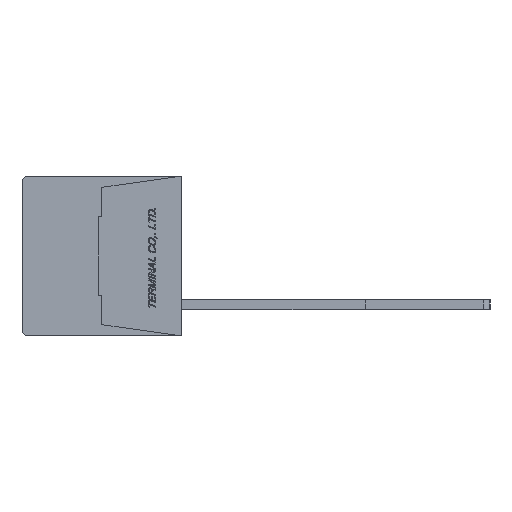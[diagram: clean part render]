
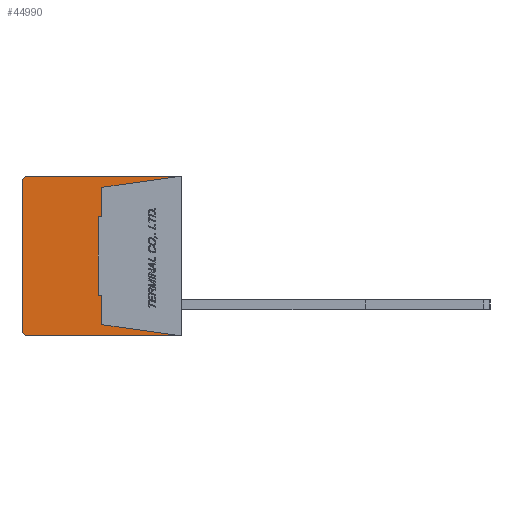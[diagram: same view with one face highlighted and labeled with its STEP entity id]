
A CAD part, left-side view. The second image highlights one B-rep face of the part: STEP entity #44990.
In plain terms, the highlighted planar face has unit normal (-1, 0, 0).
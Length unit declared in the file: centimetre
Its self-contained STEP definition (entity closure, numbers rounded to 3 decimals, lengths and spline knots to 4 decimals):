
#2270=CIRCLE('',#76995,0.05);
#2271=CIRCLE('',#76998,0.05);
#3968=VERTEX_POINT('',#62459);
#3969=VERTEX_POINT('',#62461);
#3970=VERTEX_POINT('',#62465);
#3971=VERTEX_POINT('',#62469);
#3972=VERTEX_POINT('',#62473);
#3973=VERTEX_POINT('',#62477);
#3974=VERTEX_POINT('',#62481);
#3975=VERTEX_POINT('',#62483);
#3976=VERTEX_POINT('',#62485);
#3977=VERTEX_POINT('',#62487);
#3978=VERTEX_POINT('',#62489);
#3979=VERTEX_POINT('',#62491);
#8728=VECTOR('',#52216,1.);
#8732=VECTOR('',#52225,1.);
#8735=VECTOR('',#52233,1.);
#8736=VECTOR('',#52235,1.);
#8737=VECTOR('',#52236,1.);
#8738=VECTOR('',#52237,1.);
#8739=VECTOR('',#52238,1.);
#8740=VECTOR('',#52239,1.);
#8741=VECTOR('',#52240,1.);
#8742=VECTOR('',#52241,1.);
#14010=LINE('',#62460,#8728);
#14014=LINE('',#62470,#8732);
#14017=LINE('',#62478,#8735);
#14018=LINE('',#62480,#8736);
#14019=LINE('',#62482,#8737);
#14020=LINE('',#62484,#8738);
#14021=LINE('',#62486,#8739);
#14022=LINE('',#62488,#8740);
#14023=LINE('',#62490,#8741);
#14024=LINE('',#62492,#8742);
#19900=EDGE_CURVE('',#3969,#3968,#14010,.T.);
#19903=EDGE_CURVE('',#3970,#3968,#2270,.T.);
#19905=EDGE_CURVE('',#3970,#3971,#14014,.T.);
#19907=EDGE_CURVE('',#3972,#3971,#2271,.T.);
#19909=EDGE_CURVE('',#3972,#3973,#14017,.T.);
#19910=EDGE_CURVE('',#3974,#3969,#14018,.T.);
#19911=EDGE_CURVE('',#3973,#3975,#14019,.T.);
#19912=EDGE_CURVE('',#3975,#3976,#14020,.T.);
#19913=EDGE_CURVE('',#3976,#3977,#14021,.T.);
#19914=EDGE_CURVE('',#3977,#3978,#14022,.T.);
#19915=EDGE_CURVE('',#3978,#3979,#14023,.T.);
#19916=EDGE_CURVE('',#3979,#3974,#14024,.T.);
#29023=ORIENTED_EDGE('',*,*,#19910,.T.);
#29024=ORIENTED_EDGE('',*,*,#19900,.T.);
#29025=ORIENTED_EDGE('',*,*,#19903,.F.);
#29026=ORIENTED_EDGE('',*,*,#19905,.T.);
#29027=ORIENTED_EDGE('',*,*,#19907,.F.);
#29028=ORIENTED_EDGE('',*,*,#19909,.T.);
#29029=ORIENTED_EDGE('',*,*,#19911,.T.);
#29030=ORIENTED_EDGE('',*,*,#19912,.T.);
#29031=ORIENTED_EDGE('',*,*,#19913,.T.);
#29032=ORIENTED_EDGE('',*,*,#19914,.T.);
#29033=ORIENTED_EDGE('',*,*,#19915,.T.);
#29034=ORIENTED_EDGE('',*,*,#19916,.T.);
#39156=EDGE_LOOP('',(#29023,#29024,#29025,#29026,#29027,#29028,#29029,#29030,
#29031,#29032,#29033,#29034));
#42146=FACE_BOUND('',#39156,.T.);
#44990=ADVANCED_FACE('',(#42146),#47454,.F.);
#47454=PLANE('',#77000);
#52216=DIRECTION('',(0.,1.,0.));
#52221=DIRECTION('',(1.,0.,0.));
#52222=DIRECTION('',(0.,0.,-0.05));
#52225=DIRECTION('',(0.,0.,-1.));
#52229=DIRECTION('',(1.,0.,0.));
#52230=DIRECTION('',(0.,0.,-0.05));
#52233=DIRECTION('',(0.,-1.,0.));
#52234=DIRECTION('',(1.,0.,0.));
#52235=DIRECTION('',(0.,-0.99,0.139));
#52236=DIRECTION('',(0.,0.99,0.139));
#52237=DIRECTION('',(0.,0.,1.));
#52238=DIRECTION('',(0.,1.,0.));
#52239=DIRECTION('',(0.,0.,1.));
#52240=DIRECTION('',(0.,-1.,0.));
#52241=DIRECTION('',(0.,0.,1.));
#62459=CARTESIAN_POINT('',(-1.,1.23,0.64));
#62460=CARTESIAN_POINT('',(-1.,0.,0.64));
#62461=CARTESIAN_POINT('',(-1.,0.,0.64));
#62465=CARTESIAN_POINT('',(-1.,1.28,0.59));
#62466=CARTESIAN_POINT('',(-1.,1.23,0.59));
#62469=CARTESIAN_POINT('',(-1.,1.28,-0.59));
#62470=CARTESIAN_POINT('',(-1.,1.28,0.59));
#62473=CARTESIAN_POINT('',(-1.,1.23,-0.64));
#62474=CARTESIAN_POINT('',(-1.,1.23,-0.59));
#62477=CARTESIAN_POINT('',(-1.,0.,-0.64));
#62478=CARTESIAN_POINT('',(-1.,1.23,-0.64));
#62479=CARTESIAN_POINT('',(-1.,0.6345,0.));
#62480=CARTESIAN_POINT('',(-1.,0.64,0.55));
#62481=CARTESIAN_POINT('',(-1.,0.64,0.55));
#62482=CARTESIAN_POINT('',(-1.,0.,-0.64));
#62483=CARTESIAN_POINT('',(-1.,0.64,-0.55));
#62484=CARTESIAN_POINT('',(-1.,0.64,-0.55));
#62485=CARTESIAN_POINT('',(-1.,0.64,-0.315));
#62486=CARTESIAN_POINT('',(-1.,0.64,-0.315));
#62487=CARTESIAN_POINT('',(-1.,0.67,-0.315));
#62488=CARTESIAN_POINT('',(-1.,0.67,-0.315));
#62489=CARTESIAN_POINT('',(-1.,0.67,0.315));
#62490=CARTESIAN_POINT('',(-1.,0.67,0.315));
#62491=CARTESIAN_POINT('',(-1.,0.64,0.315));
#62492=CARTESIAN_POINT('',(-1.,0.64,0.315));
#76995=AXIS2_PLACEMENT_3D('',#62466,#52221,#52222);
#76998=AXIS2_PLACEMENT_3D('',#62474,#52229,#52230);
#77000=AXIS2_PLACEMENT_3D('',#62479,#52234,$);
